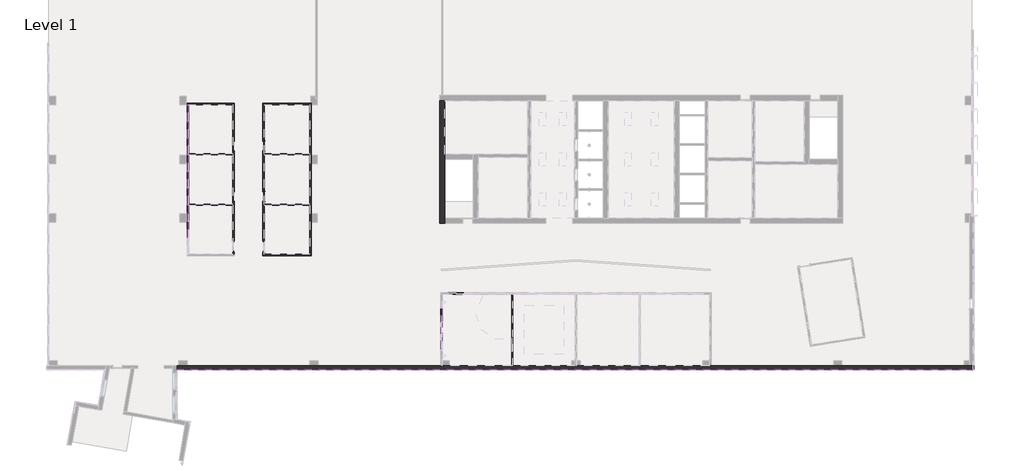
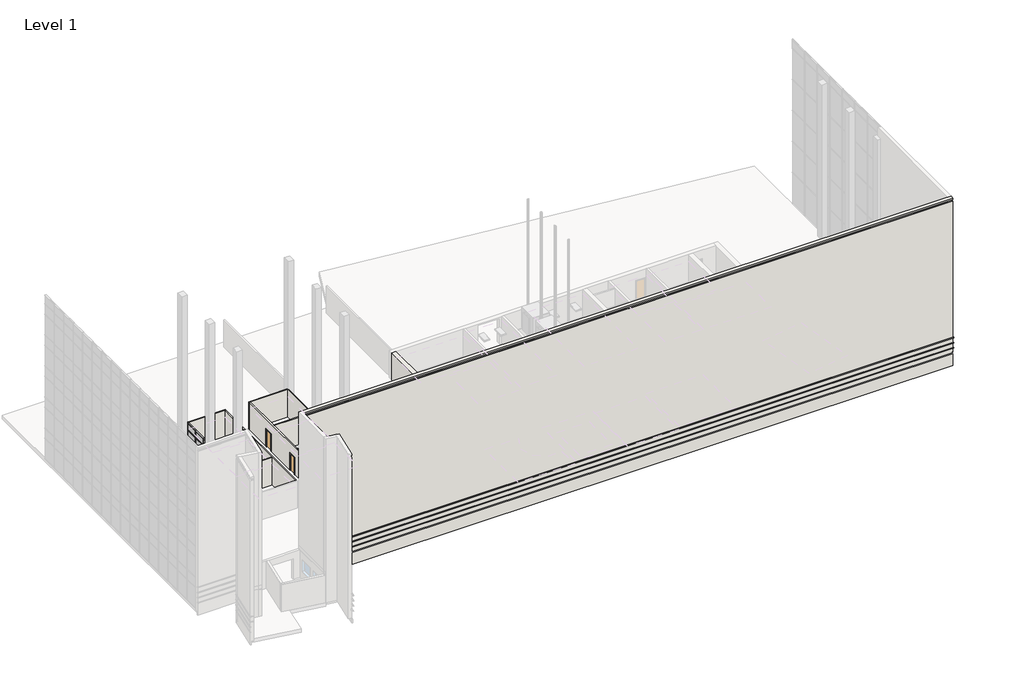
# One storey, part 6 of 23: 48 members, 17 plates, 14 walls, 4 doors, 3 proxies.
"""IFC4 building model written with IfcOpenShell, lengths in millimetres."""

from ifc_helpers import new_model, si_unit, frame, origin, origin_with_axes, place, context, project, spatial, polyline, outline, extrude, faceted_brep, transform, mapped, element, save
from components import door_82111de5, door_92889684, member_fc09b6aa, member_75074519, member_9597caa3, member_b2bde9e6, member_131a91bd, member_8e4b14e5, member_5adcf121, member_e7ed5742, member_d635bea1, member_194437a1, member_8e09d03a, member_19b6149e, member_7e386bcc, member_b540e27d, system_panel_glazed_f771dc8d, system_panel_glazed_f1d9fa5b, system_panel_glazed_1974f2ce, system_panel_solid_d74a2081, system_panel_solid_e04ca811

model = new_model("IFC4")

# Units and contexts
model_context = context("Model", 3, world=origin())
ifc_project = project(units=[si_unit("LENGTHUNIT", "METRE", prefix="MILLI")], contexts=[model_context])

# Site, building, storey
site = spatial("IfcSite", under=ifc_project)
building = spatial("IfcBuilding", under=site)
storey = spatial("IfcBuildingStorey", under=building, Name="Level 1", Elevation=0.0)

# Proxies
placement = place(None, origin())
element("IfcBuildingElementProxy", 1, Name="Reveals", at=placement, inside=storey, context=model_context, shape_type="SweptSolid", body=[
    extrude(outline(polyline([(15157.6054088, -28056.8103492), (15249.6804088, -28148.8853492), (-57009.4125003, -28148.8853492), (-57101.4875003, -28056.8103492), (15157.6054088, -28056.8103492)])), frame((0.0, 0.0, 1625.6), z_axis=(0.0, 0.0, 1.0), x_axis=(1.0, 0.0, 0.0)), (0.0, 0.0, 1.0), 67.7333333),
])
element("IfcBuildingElementProxy", 2, Name="Reveals", at=placement, inside=storey, context=model_context, shape_type="SweptSolid", body=[
    extrude(outline(polyline([(15157.6054088, -28056.8103492), (15249.6804088, -28148.8853492), (-57009.4125003, -28148.8853492), (-57101.4875003, -28056.8103492), (15157.6054088, -28056.8103492)])), frame((0.0, 0.0, 2235.2), z_axis=(0.0, 0.0, 1.0), x_axis=(1.0, 0.0, 0.0)), (0.0, 0.0, 1.0), 67.7333333),
])
element("IfcBuildingElementProxy", 3, Name="Reveals", at=placement, inside=storey, context=model_context, shape_type="SweptSolid", body=[
    extrude(outline(polyline([(15157.6054088, -28056.8103492), (15249.6804088, -28148.8853492), (-57009.4125003, -28148.8853492), (-57101.4875003, -28056.8103492), (15157.6054088, -28056.8103492)])), frame((0.0, 0.0, 2844.8), z_axis=(0.0, 0.0, 1.0), x_axis=(1.0, 0.0, 0.0)), (0.0, 0.0, 1.0), 67.7333333),
])

# Doors
door_shape = door_82111de5(model_context)
element("IfcDoor", 4, ObjectType="Single-Flush : 34\" x 80\"", at=placement, inside=storey, context=model_context, shape_type="MappedRepresentation", body=[
    mapped(door_shape, transform((-51923.5856498, -12385.0103492, 0.0), x_axis=(0.0, -1.0, 0.0), y_axis=(1.0, 0.0, 0.0), z_axis=(0.0, 0.0, 1.0))),
])
element("IfcDoor", 5, ObjectType="Single-Flush : 34\" x 80\"", at=placement, inside=storey, context=model_context, shape_type="MappedRepresentation", body=[
    mapped(door_shape, transform((-51923.5856498, -7813.0103492, 0.0), x_axis=(0.0, -1.0, 0.0), y_axis=(1.0, 0.0, 0.0), z_axis=(0.0, 0.0, 1.0))),
])
door_2_shape = door_92889684(model_context)
element("IfcDoor", 6, ObjectType="Single-Flush : 34\" x 80\"", at=placement, inside=storey, context=model_context, shape_type="MappedRepresentation", body=[
    mapped(door_2_shape, transform((-49194.8999355, -12385.0103492, 0.0), x_axis=(0.0, -1.0, 0.0), y_axis=(1.0, 0.0, 0.0), z_axis=(0.0, 0.0, 1.0))),
])
element("IfcDoor", 7, ObjectType="Single-Flush : 34\" x 80\"", at=placement, inside=storey, context=model_context, shape_type="MappedRepresentation", body=[
    mapped(door_2_shape, transform((-49194.8999355, -7813.0103492, 0.0), x_axis=(0.0, -1.0, 0.0), y_axis=(1.0, 0.0, 0.0), z_axis=(0.0, 0.0, 1.0))),
])

# Members
member_shape = member_fc09b6aa(model_context)
element("IfcMember", 8, ObjectType="Rectangular Mullion : 2.5\" x 5\" rectangular", at=placement, inside=storey, context=model_context, shape_type="MappedRepresentation", body=[
    mapped(member_shape, transform((-56063.7856498, -14635.7325714, 2413.0), x_axis=(0.0, 0.0, 1.0), y_axis=(1.0, 0.0, 0.0), z_axis=(0.0, 1.0, 0.0))),
])
element("IfcMember", 9, ObjectType="Rectangular Mullion : 2.5\" x 5\" rectangular", at=placement, inside=storey, context=model_context, shape_type="MappedRepresentation", body=[
    mapped(member_shape, transform((-56063.7856498, -13125.8436825, 2413.0), x_axis=(0.0, 0.0, 1.0), y_axis=(1.0, 0.0, 0.0), z_axis=(0.0, 1.0, 0.0))),
])
element("IfcMember", 10, ObjectType="Rectangular Mullion : 2.5\" x 5\" rectangular", at=placement, inside=storey, context=model_context, shape_type="MappedRepresentation", body=[
    mapped(member_shape, transform((-56063.7856498, -11615.9547936, 2413.0), x_axis=(0.0, 0.0, 1.0), y_axis=(1.0, 0.0, 0.0), z_axis=(0.0, 1.0, 0.0))),
])
element("IfcMember", 11, ObjectType="Rectangular Mullion : 2.5\" x 5\" rectangular", at=placement, inside=storey, context=model_context, shape_type="MappedRepresentation", body=[
    mapped(member_shape, transform((-56063.7856498, -10106.0659048, 2413.0), x_axis=(0.0, 0.0, 1.0), y_axis=(1.0, 0.0, 0.0), z_axis=(0.0, 1.0, 0.0))),
])
element("IfcMember", 12, ObjectType="Rectangular Mullion : 2.5\" x 5\" rectangular", at=placement, inside=storey, context=model_context, shape_type="MappedRepresentation", body=[
    mapped(member_shape, transform((-56063.7856498, -8596.1770159, 2413.0), x_axis=(0.0, 0.0, 1.0), y_axis=(1.0, 0.0, 0.0), z_axis=(0.0, 1.0, 0.0))),
])
element("IfcMember", 13, ObjectType="Rectangular Mullion : 2.5\" x 5\" rectangular", at=placement, inside=storey, context=model_context, shape_type="MappedRepresentation", body=[
    mapped(member_shape, transform((-56063.7856498, -7086.288127, 2413.0), x_axis=(0.0, 0.0, 1.0), y_axis=(1.0, 0.0, 0.0), z_axis=(0.0, 1.0, 0.0))),
])
element("IfcMember", 14, ObjectType="Rectangular Mullion : 2.5\" x 5\" rectangular", at=placement, inside=storey, context=model_context, shape_type="MappedRepresentation", body=[
    mapped(member_shape, transform((-56063.7856498, -5576.3992381, 2413.0), x_axis=(0.0, 0.0, 1.0), y_axis=(1.0, 0.0, 0.0), z_axis=(0.0, 1.0, 0.0))),
])
member_2_shape = member_75074519(model_context)
element("IfcMember", 15, ObjectType="Rectangular Mullion : 2.5\" x 5\" rectangular", at=placement, inside=storey, context=model_context, shape_type="MappedRepresentation", body=[
    mapped(member_2_shape, transform((-33067.7142212, -22546.5978492, 2413.0), x_axis=(0.0, 0.0, 1.0), y_axis=(1.0, 0.0, 0.0), z_axis=(0.0, 1.0, 0.0))),
])
member_3_shape = member_9597caa3(model_context)
element("IfcMember", 16, ObjectType="Rectangular Mullion : 2.5\" x 5\" rectangular", at=placement, inside=storey, context=model_context, shape_type="MappedRepresentation", body=[
    mapped(member_3_shape, transform((-56063.7856498, -14635.7325714, 38.1), x_axis=(0.0, 1.0, 0.0), y_axis=(1.0, 0.0, 0.0), z_axis=(0.0, 0.0, -1.0))),
])
element("IfcMember", 17, ObjectType="Rectangular Mullion : 2.5\" x 5\" rectangular", at=placement, inside=storey, context=model_context, shape_type="MappedRepresentation", body=[
    mapped(member_3_shape, transform((-56063.7856498, -13125.8436825, 38.1), x_axis=(0.0, 1.0, 0.0), y_axis=(1.0, 0.0, 0.0), z_axis=(0.0, 0.0, -1.0))),
])
element("IfcMember", 18, ObjectType="Rectangular Mullion : 2.5\" x 5\" rectangular", at=placement, inside=storey, context=model_context, shape_type="MappedRepresentation", body=[
    mapped(member_3_shape, transform((-56063.7856498, -11615.9547936, 38.1), x_axis=(0.0, 1.0, 0.0), y_axis=(1.0, 0.0, 0.0), z_axis=(0.0, 0.0, -1.0))),
])
element("IfcMember", 19, ObjectType="Rectangular Mullion : 2.5\" x 5\" rectangular", at=placement, inside=storey, context=model_context, shape_type="MappedRepresentation", body=[
    mapped(member_3_shape, transform((-56063.7856498, -10106.0659048, 38.1), x_axis=(0.0, 1.0, 0.0), y_axis=(1.0, 0.0, 0.0), z_axis=(0.0, 0.0, -1.0))),
])
element("IfcMember", 20, ObjectType="Rectangular Mullion : 2.5\" x 5\" rectangular", at=placement, inside=storey, context=model_context, shape_type="MappedRepresentation", body=[
    mapped(member_3_shape, transform((-56063.7856498, -8596.1770159, 38.1), x_axis=(0.0, 1.0, 0.0), y_axis=(1.0, 0.0, 0.0), z_axis=(0.0, 0.0, -1.0))),
])
element("IfcMember", 21, ObjectType="Rectangular Mullion : 2.5\" x 5\" rectangular", at=placement, inside=storey, context=model_context, shape_type="MappedRepresentation", body=[
    mapped(member_3_shape, transform((-56063.7856498, -7086.288127, 38.1), x_axis=(0.0, 1.0, 0.0), y_axis=(1.0, 0.0, 0.0), z_axis=(0.0, 0.0, -1.0))),
])
element("IfcMember", 22, ObjectType="Rectangular Mullion : 2.5\" x 5\" rectangular", at=placement, inside=storey, context=model_context, shape_type="MappedRepresentation", body=[
    mapped(member_3_shape, transform((-56063.7856498, -5576.3992381, 38.1), x_axis=(0.0, 1.0, 0.0), y_axis=(1.0, 0.0, 0.0), z_axis=(0.0, 0.0, -1.0))),
])
member_4_shape = member_b2bde9e6(model_context)
element("IfcMember", 23, ObjectType="Rectangular Mullion : 2.5\" x 5\" rectangular", at=placement, inside=storey, context=model_context, shape_type="MappedRepresentation", body=[
    mapped(member_4_shape, transform((-56063.7856498, -4066.5103492, 38.1), x_axis=(0.0, 1.0, 0.0), y_axis=(1.0, 0.0, 0.0), z_axis=(0.0, 0.0, -1.0))),
])
member_5_shape = member_131a91bd(model_context)
element("IfcMember", 24, ObjectType="Rectangular Mullion : 2.5\" x 5\" rectangular", at=placement, inside=storey, context=model_context, shape_type="MappedRepresentation", body=[
    mapped(member_5_shape, transform((-56063.7856498, -4066.5103492, 3222.625), x_axis=(0.0, 0.0, 1.0), y_axis=(1.0, 0.0, 0.0), z_axis=(0.0, 1.0, 0.0))),
])
element("IfcMember", 25, ObjectType="Rectangular Mullion : 2.5\" x 5\" rectangular", at=placement, inside=storey, context=model_context, shape_type="MappedRepresentation", body=[
    mapped(member_5_shape, transform((-56063.7856498, -14635.7325714, 3222.625), x_axis=(0.0, 0.0, 1.0), y_axis=(1.0, 0.0, 0.0), z_axis=(0.0, 1.0, 0.0))),
])
element("IfcMember", 26, ObjectType="Rectangular Mullion : 2.5\" x 5\" rectangular", at=placement, inside=storey, context=model_context, shape_type="MappedRepresentation", body=[
    mapped(member_5_shape, transform((-56063.7856498, -13125.8436825, 3222.625), x_axis=(0.0, 0.0, 1.0), y_axis=(1.0, 0.0, 0.0), z_axis=(0.0, 1.0, 0.0))),
])
element("IfcMember", 27, ObjectType="Rectangular Mullion : 2.5\" x 5\" rectangular", at=placement, inside=storey, context=model_context, shape_type="MappedRepresentation", body=[
    mapped(member_5_shape, transform((-56063.7856498, -11615.9547936, 3222.625), x_axis=(0.0, 0.0, 1.0), y_axis=(1.0, 0.0, 0.0), z_axis=(0.0, 1.0, 0.0))),
])
element("IfcMember", 28, ObjectType="Rectangular Mullion : 2.5\" x 5\" rectangular", at=placement, inside=storey, context=model_context, shape_type="MappedRepresentation", body=[
    mapped(member_5_shape, transform((-56063.7856498, -10106.0659048, 3222.625), x_axis=(0.0, 0.0, 1.0), y_axis=(1.0, 0.0, 0.0), z_axis=(0.0, 1.0, 0.0))),
])
element("IfcMember", 29, ObjectType="Rectangular Mullion : 2.5\" x 5\" rectangular", at=placement, inside=storey, context=model_context, shape_type="MappedRepresentation", body=[
    mapped(member_5_shape, transform((-56063.7856498, -8596.1770159, 3222.625), x_axis=(0.0, 0.0, 1.0), y_axis=(1.0, 0.0, 0.0), z_axis=(0.0, 1.0, 0.0))),
])
element("IfcMember", 30, ObjectType="Rectangular Mullion : 2.5\" x 5\" rectangular", at=placement, inside=storey, context=model_context, shape_type="MappedRepresentation", body=[
    mapped(member_5_shape, transform((-56063.7856498, -7086.288127, 3222.625), x_axis=(0.0, 0.0, 1.0), y_axis=(1.0, 0.0, 0.0), z_axis=(0.0, 1.0, 0.0))),
])
element("IfcMember", 31, ObjectType="Rectangular Mullion : 2.5\" x 5\" rectangular", at=placement, inside=storey, context=model_context, shape_type="MappedRepresentation", body=[
    mapped(member_5_shape, transform((-56063.7856498, -5576.3992381, 3222.625), x_axis=(0.0, 0.0, 1.0), y_axis=(1.0, 0.0, 0.0), z_axis=(0.0, 1.0, 0.0))),
])
element("IfcMember", 32, ObjectType="Rectangular Mullion : 2.5\" x 5\" rectangular", at=placement, inside=storey, context=model_context, shape_type="MappedRepresentation", body=[
    mapped(member_5_shape, transform((-56063.7856498, -14635.7325714, -25.4), x_axis=(0.0, 0.0, -1.0), y_axis=(1.0, 0.0, 0.0), z_axis=(0.0, -1.0, 0.0))),
])
element("IfcMember", 33, ObjectType="Rectangular Mullion : 2.5\" x 5\" rectangular", at=placement, inside=storey, context=model_context, shape_type="MappedRepresentation", body=[
    mapped(member_5_shape, transform((-56063.7856498, -13125.8436825, -25.4), x_axis=(0.0, 0.0, -1.0), y_axis=(1.0, 0.0, 0.0), z_axis=(0.0, -1.0, 0.0))),
])
element("IfcMember", 34, ObjectType="Rectangular Mullion : 2.5\" x 5\" rectangular", at=placement, inside=storey, context=model_context, shape_type="MappedRepresentation", body=[
    mapped(member_5_shape, transform((-56063.7856498, -11615.9547936, -25.4), x_axis=(0.0, 0.0, -1.0), y_axis=(1.0, 0.0, 0.0), z_axis=(0.0, -1.0, 0.0))),
])
element("IfcMember", 35, ObjectType="Rectangular Mullion : 2.5\" x 5\" rectangular", at=placement, inside=storey, context=model_context, shape_type="MappedRepresentation", body=[
    mapped(member_5_shape, transform((-56063.7856498, -10106.0659048, -25.4), x_axis=(0.0, 0.0, -1.0), y_axis=(1.0, 0.0, 0.0), z_axis=(0.0, -1.0, 0.0))),
])
element("IfcMember", 36, ObjectType="Rectangular Mullion : 2.5\" x 5\" rectangular", at=placement, inside=storey, context=model_context, shape_type="MappedRepresentation", body=[
    mapped(member_5_shape, transform((-56063.7856498, -8596.1770159, -25.4), x_axis=(0.0, 0.0, -1.0), y_axis=(1.0, 0.0, 0.0), z_axis=(0.0, -1.0, 0.0))),
])
element("IfcMember", 37, ObjectType="Rectangular Mullion : 2.5\" x 5\" rectangular", at=placement, inside=storey, context=model_context, shape_type="MappedRepresentation", body=[
    mapped(member_5_shape, transform((-56063.7856498, -7086.288127, -25.4), x_axis=(0.0, 0.0, -1.0), y_axis=(1.0, 0.0, 0.0), z_axis=(0.0, -1.0, 0.0))),
])
element("IfcMember", 38, ObjectType="Rectangular Mullion : 2.5\" x 5\" rectangular", at=placement, inside=storey, context=model_context, shape_type="MappedRepresentation", body=[
    mapped(member_5_shape, transform((-56063.7856498, -5576.3992381, -25.4), x_axis=(0.0, 0.0, -1.0), y_axis=(1.0, 0.0, 0.0), z_axis=(0.0, -1.0, 0.0))),
])
member_6_shape = member_8e4b14e5(model_context)
element("IfcMember", 39, ObjectType="Rectangular Mullion : 2.5\" x 5\" rectangular", at=placement, inside=storey, context=model_context, shape_type="MappedRepresentation", body=[
    mapped(member_6_shape, transform((-56063.7856498, -4130.0103492, 2413.0), x_axis=(0.0, 0.0, 1.0), y_axis=(1.0, 0.0, 0.0), z_axis=(0.0, 1.0, 0.0))),
])
member_7_shape = member_5adcf121(model_context)
element("IfcMember", 40, ObjectType="Rectangular Mullion : 2.5\" x 5\" rectangular", at=placement, inside=storey, context=model_context, shape_type="MappedRepresentation", body=[
    mapped(member_7_shape, transform((-33067.7142212, -24781.7978492, 38.1), x_axis=(0.0, 1.0, 0.0), y_axis=(1.0, 0.0, 0.0), z_axis=(0.0, 0.0, -1.0))),
])
element("IfcMember", 41, ObjectType="Rectangular Mullion : 2.5\" x 5\" rectangular", at=placement, inside=storey, context=model_context, shape_type="MappedRepresentation", body=[
    mapped(member_7_shape, transform((-33067.7142212, -23765.7978492, 38.1), x_axis=(0.0, 1.0, 0.0), y_axis=(1.0, 0.0, 0.0), z_axis=(0.0, 0.0, -1.0))),
])
member_8_shape = member_e7ed5742(model_context)
element("IfcMember", 42, ObjectType="Rectangular Mullion : 2.5\" x 5\" rectangular", at=placement, inside=storey, context=model_context, shape_type="MappedRepresentation", body=[
    mapped(member_8_shape, transform((-33067.7142212, -22546.5978492, 38.1), x_axis=(0.0, 1.0, 0.0), y_axis=(1.0, 0.0, 0.0), z_axis=(0.0, 0.0, -1.0))),
])
element("IfcMember", 43, ObjectType="Rectangular Mullion : 2.5\" x 5\" rectangular", at=placement, inside=storey, context=model_context, shape_type="MappedRepresentation", body=[
    mapped(member_8_shape, transform((-32436.3427926, -21198.8103492, 2349.5), x_axis=(-1.0, 0.0, 0.0), y_axis=(0.0, -1.0, 0.0), z_axis=(0.0, 0.0, 1.0))),
])
member_9_shape = member_d635bea1(model_context)
element("IfcMember", 44, ObjectType="Rectangular Mullion : 2.5\" x 5\" rectangular", at=placement, inside=storey, context=model_context, shape_type="MappedRepresentation", body=[
    mapped(member_9_shape, transform((-33067.7142212, -23797.5478492, -25.4), x_axis=(0.0, 0.0, -1.0), y_axis=(1.0, 0.0, 0.0), z_axis=(0.0, -1.0, 0.0))),
])
member_10_shape = member_194437a1(model_context)
element("IfcMember", 45, ObjectType="Rectangular Mullion : 2.5\" x 5\" rectangular", at=placement, inside=storey, context=model_context, shape_type="MappedRepresentation", body=[
    mapped(member_10_shape, transform((-33067.7142212, -24781.7978492, 2413.0), x_axis=(0.0, 0.0, 1.0), y_axis=(1.0, 0.0, 0.0), z_axis=(0.0, 1.0, 0.0))),
])
member_11_shape = member_8e09d03a(model_context)
element("IfcMember", 46, ObjectType="Rectangular Mullion : 2.5\" x 5\" rectangular", at=placement, inside=storey, context=model_context, shape_type="MappedRepresentation", body=[
    mapped(member_11_shape, transform((-33067.7142212, -23765.7978492, 2413.0), x_axis=(0.0, 0.0, 1.0), y_axis=(1.0, 0.0, 0.0), z_axis=(0.0, 1.0, 0.0))),
])
member_12_shape = member_19b6149e(model_context)
element("IfcMember", 47, ObjectType="Rectangular Mullion : 2.5\" x 5\" rectangular", at=placement, inside=storey, context=model_context, shape_type="MappedRepresentation", body=[
    mapped(member_12_shape, transform((-32436.3427926, -21198.8103492, -25.4), x_axis=(0.0, 0.0, -1.0), y_axis=(0.0, -1.0, 0.0), z_axis=(-1.0, 0.0, 0.0))),
])
member_13_shape = member_7e386bcc(model_context)
element("IfcMember", 48, ObjectType="Rectangular Mullion : 2.5\" x 5\" rectangular", at=placement, inside=storey, context=model_context, shape_type="MappedRepresentation", body=[
    mapped(member_13_shape, transform((-56063.7856498, -14635.7325714, 2444.75), x_axis=(0.0, 1.0, 0.0), y_axis=(1.0, 0.0, 0.0), z_axis=(0.0, 0.0, -1.0))),
])
element("IfcMember", 49, ObjectType="Rectangular Mullion : 2.5\" x 5\" rectangular", at=placement, inside=storey, context=model_context, shape_type="MappedRepresentation", body=[
    mapped(member_13_shape, transform((-56063.7856498, -13125.8436825, 2444.75), x_axis=(0.0, 1.0, 0.0), y_axis=(1.0, 0.0, 0.0), z_axis=(0.0, 0.0, -1.0))),
])
element("IfcMember", 50, ObjectType="Rectangular Mullion : 2.5\" x 5\" rectangular", at=placement, inside=storey, context=model_context, shape_type="MappedRepresentation", body=[
    mapped(member_13_shape, transform((-56063.7856498, -11615.9547936, 2444.75), x_axis=(0.0, 1.0, 0.0), y_axis=(1.0, 0.0, 0.0), z_axis=(0.0, 0.0, -1.0))),
])
element("IfcMember", 51, ObjectType="Rectangular Mullion : 2.5\" x 5\" rectangular", at=placement, inside=storey, context=model_context, shape_type="MappedRepresentation", body=[
    mapped(member_13_shape, transform((-56063.7856498, -10106.0659048, 2444.75), x_axis=(0.0, 1.0, 0.0), y_axis=(1.0, 0.0, 0.0), z_axis=(0.0, 0.0, -1.0))),
])
element("IfcMember", 52, ObjectType="Rectangular Mullion : 2.5\" x 5\" rectangular", at=placement, inside=storey, context=model_context, shape_type="MappedRepresentation", body=[
    mapped(member_13_shape, transform((-56063.7856498, -8596.1770159, 2444.75), x_axis=(0.0, 1.0, 0.0), y_axis=(1.0, 0.0, 0.0), z_axis=(0.0, 0.0, -1.0))),
])
element("IfcMember", 53, ObjectType="Rectangular Mullion : 2.5\" x 5\" rectangular", at=placement, inside=storey, context=model_context, shape_type="MappedRepresentation", body=[
    mapped(member_13_shape, transform((-56063.7856498, -7086.288127, 2444.75), x_axis=(0.0, 1.0, 0.0), y_axis=(1.0, 0.0, 0.0), z_axis=(0.0, 0.0, -1.0))),
])
element("IfcMember", 54, ObjectType="Rectangular Mullion : 2.5\" x 5\" rectangular", at=placement, inside=storey, context=model_context, shape_type="MappedRepresentation", body=[
    mapped(member_13_shape, transform((-56063.7856498, -5576.3992381, 2444.75), x_axis=(0.0, 1.0, 0.0), y_axis=(1.0, 0.0, 0.0), z_axis=(0.0, 0.0, -1.0))),
])
member_14_shape = member_b540e27d(model_context)
element("IfcMember", 55, ObjectType="Rectangular Mullion : 2.5\" x 5\" rectangular", at=placement, inside=storey, context=model_context, shape_type="MappedRepresentation", body=[
    mapped(member_14_shape, transform((-56063.7856498, -4066.5103492, 2413.0), x_axis=(0.0, 1.0, 0.0), y_axis=(1.0, 0.0, 0.0), z_axis=(0.0, 0.0, -1.0))),
])

# Plates
system_panel_glazed_shape = system_panel_glazed_f771dc8d(model_context)
element("IfcPlate", 56, ObjectType="System Panel : Glazed", at=placement, inside=storey, context=model_context, shape_type="MappedRepresentation", body=[
    mapped(system_panel_glazed_shape, transform((-56063.7856498, -4837.3297936, 38.1), x_axis=(0.0, 1.0, 0.0), y_axis=(-1.0, 0.0, 0.0), z_axis=(0.0, 0.0, 1.0))),
])
system_panel_glazed_2_shape = system_panel_glazed_f1d9fa5b(model_context)
element("IfcPlate", 57, ObjectType="System Panel : Glazed", at=placement, inside=storey, context=model_context, shape_type="MappedRepresentation", body=[
    mapped(system_panel_glazed_2_shape, transform((-56063.7856498, -15390.6770159, 38.1), x_axis=(0.0, 1.0, 0.0), y_axis=(-1.0, 0.0, 0.0), z_axis=(0.0, 0.0, 1.0))),
])
element("IfcPlate", 58, ObjectType="System Panel : Glazed", at=placement, inside=storey, context=model_context, shape_type="MappedRepresentation", body=[
    mapped(system_panel_glazed_2_shape, transform((-56063.7856498, -13880.788127, 38.1), x_axis=(0.0, 1.0, 0.0), y_axis=(-1.0, 0.0, 0.0), z_axis=(0.0, 0.0, 1.0))),
])
element("IfcPlate", 59, ObjectType="System Panel : Glazed", at=placement, inside=storey, context=model_context, shape_type="MappedRepresentation", body=[
    mapped(system_panel_glazed_2_shape, transform((-56063.7856498, -12370.8992381, 38.1), x_axis=(0.0, 1.0, 0.0), y_axis=(-1.0, 0.0, 0.0), z_axis=(0.0, 0.0, 1.0))),
])
element("IfcPlate", 60, ObjectType="System Panel : Glazed", at=placement, inside=storey, context=model_context, shape_type="MappedRepresentation", body=[
    mapped(system_panel_glazed_2_shape, transform((-56063.7856498, -10861.0103492, 38.1), x_axis=(0.0, 1.0, 0.0), y_axis=(-1.0, 0.0, 0.0), z_axis=(0.0, 0.0, 1.0))),
])
element("IfcPlate", 61, ObjectType="System Panel : Glazed", at=placement, inside=storey, context=model_context, shape_type="MappedRepresentation", body=[
    mapped(system_panel_glazed_2_shape, transform((-56063.7856498, -9351.1214603, 38.1), x_axis=(0.0, 1.0, 0.0), y_axis=(-1.0, 0.0, 0.0), z_axis=(0.0, 0.0, 1.0))),
])
element("IfcPlate", 62, ObjectType="System Panel : Glazed", at=placement, inside=storey, context=model_context, shape_type="MappedRepresentation", body=[
    mapped(system_panel_glazed_2_shape, transform((-56063.7856498, -7841.2325714, 38.1), x_axis=(0.0, 1.0, 0.0), y_axis=(-1.0, 0.0, 0.0), z_axis=(0.0, 0.0, 1.0))),
])
element("IfcPlate", 63, ObjectType="System Panel : Glazed", at=placement, inside=storey, context=model_context, shape_type="MappedRepresentation", body=[
    mapped(system_panel_glazed_2_shape, transform((-56063.7856498, -6331.3436825, 38.1), x_axis=(0.0, 1.0, 0.0), y_axis=(-1.0, 0.0, 0.0), z_axis=(0.0, 0.0, 1.0))),
])
system_panel_glazed_3_shape = system_panel_glazed_1974f2ce(model_context)
element("IfcPlate", 64, ObjectType="System Panel : Glazed", at=placement, inside=storey, context=model_context, shape_type="MappedRepresentation", body=[
    mapped(system_panel_glazed_3_shape, transform((-33067.7142212, -23172.0728492, 38.1), x_axis=(0.0, 1.0, 0.0), y_axis=(-1.0, 0.0, 0.0), z_axis=(0.0, 0.0, 1.0))),
])
system_panel_solid_shape = system_panel_solid_d74a2081(model_context)
element("IfcPlate", 65, ObjectType="System Panel : Solid", at=placement, inside=storey, context=model_context, shape_type="MappedRepresentation", body=[
    mapped(system_panel_solid_shape, transform((-56063.7856498, -4837.3297936, 2444.75), x_axis=(0.0, 1.0, 0.0), y_axis=(-1.0, 0.0, 0.0), z_axis=(0.0, 0.0, 1.0))),
])
system_panel_solid_2_shape = system_panel_solid_e04ca811(model_context)
element("IfcPlate", 66, ObjectType="System Panel : Solid", at=placement, inside=storey, context=model_context, shape_type="MappedRepresentation", body=[
    mapped(system_panel_solid_2_shape, transform((-56063.7856498, -15390.6770159, 2444.75), x_axis=(0.0, 1.0, 0.0), y_axis=(-1.0, 0.0, 0.0), z_axis=(0.0, 0.0, 1.0))),
])
element("IfcPlate", 67, ObjectType="System Panel : Solid", at=placement, inside=storey, context=model_context, shape_type="MappedRepresentation", body=[
    mapped(system_panel_solid_2_shape, transform((-56063.7856498, -13880.788127, 2444.75), x_axis=(0.0, 1.0, 0.0), y_axis=(-1.0, 0.0, 0.0), z_axis=(0.0, 0.0, 1.0))),
])
element("IfcPlate", 68, ObjectType="System Panel : Solid", at=placement, inside=storey, context=model_context, shape_type="MappedRepresentation", body=[
    mapped(system_panel_solid_2_shape, transform((-56063.7856498, -12370.8992381, 2444.75), x_axis=(0.0, 1.0, 0.0), y_axis=(-1.0, 0.0, 0.0), z_axis=(0.0, 0.0, 1.0))),
])
element("IfcPlate", 69, ObjectType="System Panel : Solid", at=placement, inside=storey, context=model_context, shape_type="MappedRepresentation", body=[
    mapped(system_panel_solid_2_shape, transform((-56063.7856498, -10861.0103492, 2444.75), x_axis=(0.0, 1.0, 0.0), y_axis=(-1.0, 0.0, 0.0), z_axis=(0.0, 0.0, 1.0))),
])
element("IfcPlate", 70, ObjectType="System Panel : Solid", at=placement, inside=storey, context=model_context, shape_type="MappedRepresentation", body=[
    mapped(system_panel_solid_2_shape, transform((-56063.7856498, -9351.1214603, 2444.75), x_axis=(0.0, 1.0, 0.0), y_axis=(-1.0, 0.0, 0.0), z_axis=(0.0, 0.0, 1.0))),
])
element("IfcPlate", 71, ObjectType="System Panel : Solid", at=placement, inside=storey, context=model_context, shape_type="MappedRepresentation", body=[
    mapped(system_panel_solid_2_shape, transform((-56063.7856498, -7841.2325714, 2444.75), x_axis=(0.0, 1.0, 0.0), y_axis=(-1.0, 0.0, 0.0), z_axis=(0.0, 0.0, 1.0))),
])
element("IfcPlate", 72, ObjectType="System Panel : Solid", at=placement, inside=storey, context=model_context, shape_type="MappedRepresentation", body=[
    mapped(system_panel_solid_2_shape, transform((-56063.7856498, -6331.3436825, 2444.75), x_axis=(0.0, 1.0, 0.0), y_axis=(-1.0, 0.0, 0.0), z_axis=(0.0, 0.0, 1.0))),
])

# Walls
element("IfcWall", 73, ObjectType="Core-shaft 18\" Concrete", at=placement, inside=storey, context=model_context, shape_type="Brep", body=[
    faceted_brep([(-32750.2142212, -14823.4103492, 0.0), (-32750.2142212, -14366.2103492, 0.0), (-32750.2142212, -9032.2103492, 0.0), (-32750.2142212, -8575.0103492, 0.0), (-32750.2142212, -3698.2103492, 0.0), (-32750.2142212, -3698.2103492, 3222.625), (-32750.2142212, -8575.0103492, 3222.625), (-32750.2142212, -9032.2103492, 3222.625), (-32750.2142212, -14366.2103492, 3222.625), (-32750.2142212, -14823.4103492, 3222.625), (-33207.4142212, -14823.4103492, 0.0), (-33207.4142212, -14823.4103492, 3222.625), (-33207.4142212, -3698.2103492, 3222.625), (-33207.4142212, -3698.2103492, 0.0)], [[[0, 1, 2, 3, 4, 5, 6, 7, 8, 9]], [[10, 11, 12, 13]], [[4, 3, 2, 1, 0, 10, 13]], [[0, 9, 11, 10]], [[5, 4, 13, 12]], [[9, 8, 7, 6, 5, 12, 11]]]),
])
element("IfcWall", 74, ObjectType="Exterior - Brick and CMU on MTL. Stud", at=placement, inside=storey, context=model_context, shape_type="Brep", body=[
    faceted_brep([(15183.0054088, -27729.7853492, 0.0), (14830.5804088, -27729.7853492, 0.0), (-8623.8427926, -27729.7853492, 0.0), (-8750.8427926, -27729.7853492, 0.0), (-15018.2927926, -27729.7853492, 0.0), (-15145.2927926, -27729.7853492, 0.0), (-20814.0285069, -27729.7853492, 0.0), (-20941.0285069, -27729.7853492, 0.0), (-26587.9927926, -27729.7853492, 0.0), (-26714.9927926, -27729.7853492, 0.0), (-33004.2142212, -27729.7853492, 0.0), (-33131.2142212, -27729.7853492, 0.0), (-57076.0875003, -27729.7853492, 0.0), (-57076.0875003, -27729.7853492, 3222.625), (-33131.2142212, -27729.7853492, 3222.625), (-33004.2142212, -27729.7853492, 3222.625), (-26714.9927926, -27729.7853492, 3222.625), (-26587.9927926, -27729.7853492, 3222.625), (-20941.0285069, -27729.7853492, 3222.625), (-20814.0285069, -27729.7853492, 3222.625), (-15145.2927926, -27729.7853492, 3222.625), (-15018.2927926, -27729.7853492, 3222.625), (-8750.8427926, -27729.7853492, 3222.625), (-8623.8427926, -27729.7853492, 3222.625), (14830.5804088, -27729.7853492, 3222.625), (14830.5804088, -27729.7853492, 3657.6), (-57076.0875003, -27729.7853492, 3657.6), (-57076.0875003, -27729.7853492, 19304.0), (14830.5804088, -27729.7853492, 19304.0), (15183.0054088, -27729.7853492, 19304.0), (15183.0054088, -27729.7853492, 19100.8), (15090.9304088, -27729.7853492, 19100.8), (15090.9304088, -27729.7853492, 18897.6), (15183.0054088, -27729.7853492, 18897.6), (15183.0054088, -27729.7853492, 2912.5333333), (15157.6054088, -27729.7853492, 2912.5333333), (15157.6054088, -27729.7853492, 2844.8), (15183.0054088, -27729.7853492, 2844.8), (15183.0054088, -27729.7853492, 2302.9333333), (15157.6054088, -27729.7853492, 2302.9333333), (15157.6054088, -27729.7853492, 2235.2), (15183.0054088, -27729.7853492, 2235.2), (15183.0054088, -27729.7853492, 1693.3333333), (15157.6054088, -27729.7853492, 1693.3333333), (15157.6054088, -27729.7853492, 1625.6), (15183.0054088, -27729.7853492, 1625.6), (15183.0054088, -27729.7853492, 1085.85), (15090.9304088, -27729.7853492, 1085.85), (15090.9304088, -27729.7853492, 1016.0), (15183.0054088, -27729.7853492, 1016.0), (15183.0054088, -28082.2103492, 19304.0), (-57076.0875003, -28082.2103492, 19304.0), (-57076.0875003, -28082.2103492, 19100.8), (15183.0054088, -28082.2103492, 19100.8), (-57076.0875003, -28082.2103492, -406.4), (15183.0054088, -28082.2103492, -406.4), (15183.0054088, -28082.2103492, 1016.0), (-57076.0875003, -28082.2103492, 1016.0), (-57076.0875003, -28082.2103492, 1693.3333333), (15183.0054088, -28082.2103492, 1693.3333333), (15183.0054088, -28082.2103492, 2235.2), (-57076.0875003, -28082.2103492, 2235.2), (15183.0054088, -28082.2103492, 1625.6), (-57076.0875003, -28082.2103492, 1625.6), (-57076.0875003, -28082.2103492, 1085.85), (15183.0054088, -28082.2103492, 1085.85), (-57076.0875003, -28082.2103492, 2302.9333333), (15183.0054088, -28082.2103492, 2302.9333333), (15183.0054088, -28082.2103492, 2844.8), (-57076.0875003, -28082.2103492, 2844.8), (-57076.0875003, -28082.2103492, 2912.5333333), (15183.0054088, -28082.2103492, 2912.5333333), (15183.0054088, -28082.2103492, 18897.6), (-57076.0875003, -28082.2103492, 18897.6), (15183.0054088, -27990.1353492, 0.0), (15090.9304088, -27990.1353492, 0.0), (-57076.0875003, -27990.1353492, 0.0), (15183.0054088, -27990.1353492, -406.4), (15090.9304088, -27990.1353492, -406.4), (-57076.0875003, -27990.1353492, -406.4), (15157.6054088, -28056.8103492, 1693.3333333), (-57076.0875003, -28056.8103492, 1693.3333333), (15157.6054088, -28056.8103492, 1625.6), (-57076.0875003, -28056.8103492, 1625.6), (15157.6054088, -28056.8103492, 2302.9333333), (-57076.0875003, -28056.8103492, 2302.9333333), (15157.6054088, -28056.8103492, 2235.2), (-57076.0875003, -28056.8103492, 2235.2), (15157.6054088, -28056.8103492, 2912.5333333), (-57076.0875003, -28056.8103492, 2912.5333333), (15157.6054088, -28056.8103492, 2844.8), (-57076.0875003, -28056.8103492, 2844.8), (15090.9304088, -27990.1353492, 1085.85), (-57076.0875003, -27990.1353492, 1085.85), (15090.9304088, -27990.1353492, 1016.0), (-57076.0875003, -27990.1353492, 1016.0), (15090.9304088, -27990.1353492, 18897.6), (-57076.0875003, -27990.1353492, 18897.6), (15090.9304088, -27990.1353492, 19100.8), (-57076.0875003, -27990.1353492, 19100.8), (-57076.0875003, -27735.220667, 3657.6), (-57076.0875003, -27735.220667, 3222.625), (14830.5804088, -27735.220667, 3222.625), (14830.5804088, -27735.220667, 3657.6)], [[[0, 1, 2, 3, 4, 5, 6, 7, 8, 9, 10, 11, 12, 13, 14, 15, 16, 17, 18, 19, 20, 21, 22, 23, 24, 25, 26, 27, 28, 29, 30, 31, 32, 33, 34, 35, 36, 37, 38, 39, 40, 41, 42, 43, 44, 45, 46, 47, 48, 49]], [[50, 51, 52, 53]], [[54, 55, 56, 57]], [[58, 59, 60, 61]], [[62, 63, 64, 65]], [[66, 67, 68, 69]], [[70, 71, 72, 73]], [[29, 28, 27, 51, 50]], [[12, 11, 10, 9, 8, 7, 6, 5, 4, 3, 2, 1, 0, 74, 75, 76]], [[76, 75, 74, 77, 78, 79]], [[80, 43, 42, 59, 58, 81]], [[44, 82, 83, 63, 62, 45]], [[80, 82, 44, 43]], [[82, 80, 81, 83]], [[84, 39, 38, 67, 66, 85]], [[40, 86, 87, 61, 60, 41]], [[84, 86, 40, 39]], [[86, 84, 85, 87]], [[88, 35, 34, 71, 70, 89]], [[36, 90, 91, 69, 68, 37]], [[88, 90, 36, 35]], [[90, 88, 89, 91]], [[92, 47, 46, 65, 64, 93]], [[48, 94, 95, 57, 56, 49]], [[92, 94, 48, 47]], [[94, 92, 93, 95]], [[32, 96, 97, 73, 72, 33]], [[98, 96, 32, 31]], [[98, 31, 30, 53, 52, 99]], [[96, 98, 99, 97]], [[51, 27, 26, 100, 101, 13, 12, 76, 79, 54, 57, 95, 93, 64, 63, 83, 81, 58, 61, 87, 85, 66, 69, 91, 89, 70, 73, 97, 99, 52]], [[29, 50, 53, 30]], [[59, 42, 41, 60]], [[45, 62, 65, 46]], [[67, 38, 37, 68]], [[71, 34, 33, 72]], [[74, 0, 49, 56, 55, 77]], [[55, 54, 79, 78, 77]], [[101, 102, 24, 23, 22, 21, 20, 19, 18, 17, 16, 15, 14, 13]], [[25, 103, 100, 26]], [[103, 102, 101, 100]], [[102, 103, 25, 24]]]),
])
element("IfcWall", 75, ObjectType="Interior - Generic - 5\"", at=placement, inside=storey, context=model_context, shape_type="Brep", body=[
    faceted_brep([(-44864.1999355, -3939.5103492, 0.0), (-49258.3999355, -3939.5103492, 0.0), (-49258.3999355, -3939.5103492, 3222.625), (-44864.1999355, -3939.5103492, 3222.625), (-44864.1999355, -4066.5103492, 0.0), (-44864.1999355, -4066.5103492, 3222.625), (-44991.1999355, -4066.5103492, 3222.625), (-49131.3999355, -4066.5103492, 3222.625), (-49258.3999355, -4066.5103492, 3222.625), (-49258.3999355, -4066.5103492, 0.0), (-49131.3999355, -4066.5103492, 0.0), (-44991.1999355, -4066.5103492, 0.0)], [[[0, 1, 2, 3]], [[4, 5, 6, 7, 8, 9, 10, 11]], [[1, 0, 4, 11, 10, 9]], [[0, 3, 5, 4]], [[2, 1, 9, 8]], [[3, 2, 8, 7, 6, 5]]]),
])
element("IfcWall", 76, ObjectType="Interior - Generic - 5\"", at=placement, inside=storey, context=model_context, shape_type="Brep", body=[
    faceted_brep([(-44864.1999355, -17782.5103492, 0.0), (-44864.1999355, -4066.5103492, 0.0), (-44864.1999355, -4066.5103492, 3222.625), (-44864.1999355, -17782.5103492, 3222.625), (-44991.1999355, -17782.5103492, 0.0), (-44991.1999355, -17782.5103492, 3222.625), (-44991.1999355, -17655.5103492, 3222.625), (-44991.1999355, -13210.5103492, 3222.625), (-44991.1999355, -13083.5103492, 3222.625), (-44991.1999355, -8638.5103492, 3222.625), (-44991.1999355, -8511.5103492, 3222.625), (-44991.1999355, -4066.5103492, 3222.625), (-44991.1999355, -4066.5103492, 0.0), (-44991.1999355, -8511.5103492, 0.0), (-44991.1999355, -8638.5103492, 0.0), (-44991.1999355, -13083.5103492, 0.0), (-44991.1999355, -13210.5103492, 0.0), (-44991.1999355, -17655.5103492, 0.0)], [[[0, 1, 2, 3]], [[4, 5, 6, 7, 8, 9, 10, 11, 12, 13, 14, 15, 16, 17]], [[1, 0, 4, 17, 16, 15, 14, 13, 12]], [[0, 3, 5, 4]], [[2, 1, 12, 11]], [[3, 2, 11, 10, 9, 8, 7, 6, 5]]]),
])
element("IfcWall", 77, ObjectType="Interior - Generic - 5\"", at=placement, inside=storey, context=model_context, shape_type="SweptSolid", body=[
    extrude(outline(polyline([(-56127.2856498, -3939.5103492), (-56000.2856498, -3939.5103492), (-56000.2856498, -4066.5103492), (-56127.2856498, -4066.5103492), (-56127.2856498, -3939.5103492)])), origin_with_axes(), (0.0, 0.0, 1.0), 3222.625),
])
element("IfcWall", 78, ObjectType="Interior - Generic - 5\"", at=placement, inside=storey, context=model_context, shape_type="Brep", body=[
    faceted_brep([(-49131.3999355, -11953.2103492, 0.0), (-49131.3999355, -8638.5103492, 0.0), (-49131.3999355, -8511.5103492, 0.0), (-49131.3999355, -8244.8103492, 0.0), (-49131.3999355, -8244.8103492, 2032.0), (-49131.3999355, -7381.2103492, 2032.0), (-49131.3999355, -7381.2103492, 0.0), (-49131.3999355, -4066.5103492, 0.0), (-49131.3999355, -4066.5103492, 3222.625), (-49131.3999355, -8511.5103492, 3222.625), (-49131.3999355, -8638.5103492, 3222.625), (-49131.3999355, -13083.5103492, 3222.625), (-49131.3999355, -13210.5103492, 3222.625), (-49131.3999355, -17655.5103492, 3222.625), (-49131.3999355, -17655.5103492, 0.0), (-49131.3999355, -17388.8103492, 0.0), (-49131.3999355, -17388.8103492, 2032.0), (-49131.3999355, -16525.2103492, 2032.0), (-49131.3999355, -16525.2103492, 0.0), (-49131.3999355, -13210.5103492, 0.0), (-49131.3999355, -13083.5103492, 0.0), (-49131.3999355, -12816.8103492, 0.0), (-49131.3999355, -12816.8103492, 2032.0), (-49131.3999355, -11953.2103492, 2032.0), (-49258.3999355, -8244.8103492, 2032.0), (-49258.3999355, -8244.8103492, 0.0), (-49258.3999355, -11953.2103492, 0.0), (-49258.3999355, -11953.2103492, 2032.0), (-49258.3999355, -12816.8103492, 2032.0), (-49258.3999355, -12816.8103492, 0.0), (-49258.3999355, -16525.2103492, 0.0), (-49258.3999355, -16525.2103492, 2032.0), (-49258.3999355, -17388.8103492, 2032.0), (-49258.3999355, -17388.8103492, 0.0), (-49258.3999355, -17655.5103492, 0.0), (-49258.3999355, -17655.5103492, 3222.625), (-49258.3999355, -4066.5103492, 3222.625), (-49258.3999355, -4066.5103492, 0.0), (-49258.3999355, -7381.2103492, 0.0), (-49258.3999355, -7381.2103492, 2032.0)], [[[0, 1, 2, 3, 4, 5, 6, 7, 8, 9, 10, 11, 12, 13, 14, 15, 16, 17, 18, 19, 20, 21, 22, 23]], [[24, 25, 26, 27, 28, 29, 30, 31, 32, 33, 34, 35, 36, 37, 38, 39]], [[34, 33, 15, 14]], [[30, 29, 21, 20, 19, 18]], [[38, 37, 7, 6]], [[26, 25, 3, 2, 1, 0]], [[8, 7, 37, 36]], [[14, 13, 35, 34]], [[16, 15, 33, 32]], [[17, 16, 32, 31]], [[18, 17, 31, 30]], [[22, 21, 29, 28]], [[23, 22, 28, 27]], [[0, 23, 27, 26]], [[4, 3, 25, 24]], [[5, 4, 24, 39]], [[6, 5, 39, 38]], [[13, 12, 11, 10, 9, 8, 36, 35]]]),
])
element("IfcWall", 79, ObjectType="Interior - Generic - 5\"", at=placement, inside=storey, context=model_context, shape_type="Brep", body=[
    faceted_brep([(-51987.0856498, -8244.8103492, 2032.0), (-51987.0856498, -8244.8103492, 0.0), (-51987.0856498, -8511.5103492, 0.0), (-51987.0856498, -8638.5103492, 0.0), (-51987.0856498, -11953.2103492, 0.0), (-51987.0856498, -11953.2103492, 2032.0), (-51987.0856498, -12816.8103492, 2032.0), (-51987.0856498, -12816.8103492, 0.0), (-51987.0856498, -13083.5103492, 0.0), (-51987.0856498, -13210.5103492, 0.0), (-51987.0856498, -16525.2103492, 0.0), (-51987.0856498, -16525.2103492, 2032.0), (-51987.0856498, -17388.8103492, 2032.0), (-51987.0856498, -17388.8103492, 0.0), (-51987.0856498, -17655.5103492, 0.0), (-51987.0856498, -17655.5103492, 3222.625), (-51987.0856498, -13210.5103492, 3222.625), (-51987.0856498, -13083.5103492, 3222.625), (-51987.0856498, -8638.5103492, 3222.625), (-51987.0856498, -8511.5103492, 3222.625), (-51987.0856498, -4066.5103492, 3222.625), (-51987.0856498, -4066.5103492, 0.0), (-51987.0856498, -7381.2103492, 0.0), (-51987.0856498, -7381.2103492, 2032.0), (-51860.0856498, -11953.2103492, 0.0), (-51860.0856498, -8244.8103492, 0.0), (-51860.0856498, -8244.8103492, 2032.0), (-51860.0856498, -7381.2103492, 2032.0), (-51860.0856498, -7381.2103492, 0.0), (-51860.0856498, -4066.5103492, 0.0), (-51860.0856498, -4066.5103492, 3222.625), (-51860.0856498, -17655.5103492, 3222.625), (-51860.0856498, -17655.5103492, 0.0), (-51860.0856498, -17388.8103492, 0.0), (-51860.0856498, -17388.8103492, 2032.0), (-51860.0856498, -16525.2103492, 2032.0), (-51860.0856498, -16525.2103492, 0.0), (-51860.0856498, -12816.8103492, 0.0), (-51860.0856498, -12816.8103492, 2032.0), (-51860.0856498, -11953.2103492, 2032.0)], [[[0, 1, 2, 3, 4, 5, 6, 7, 8, 9, 10, 11, 12, 13, 14, 15, 16, 17, 18, 19, 20, 21, 22, 23]], [[24, 25, 26, 27, 28, 29, 30, 31, 32, 33, 34, 35, 36, 37, 38, 39]], [[14, 13, 33, 32]], [[10, 9, 8, 7, 37, 36]], [[22, 21, 29, 28]], [[4, 3, 2, 1, 25, 24]], [[21, 20, 30, 29]], [[15, 14, 32, 31]], [[34, 33, 13, 12]], [[35, 34, 12, 11]], [[36, 35, 11, 10]], [[38, 37, 7, 6]], [[39, 38, 6, 5]], [[24, 39, 5, 4]], [[26, 25, 1, 0]], [[27, 26, 0, 23]], [[28, 27, 23, 22]], [[20, 19, 18, 17, 16, 15, 31, 30]]]),
])
element("IfcWall", 80, ObjectType="Interior - Generic - 5\"", at=placement, inside=storey, context=model_context, shape_type="Brep", body=[
    faceted_brep([(-49258.3999355, -17782.5103492, 0.0), (-44991.1999355, -17782.5103492, 0.0), (-44991.1999355, -17782.5103492, 3222.625), (-49258.3999355, -17782.5103492, 3222.625), (-49258.3999355, -17655.5103492, 0.0), (-49258.3999355, -17655.5103492, 3222.625), (-49131.3999355, -17655.5103492, 3222.625), (-44991.1999355, -17655.5103492, 3222.625), (-44991.1999355, -17655.5103492, 0.0), (-49131.3999355, -17655.5103492, 0.0)], [[[0, 1, 2, 3]], [[4, 5, 6, 7, 8, 9]], [[1, 0, 4, 9, 8]], [[2, 1, 8, 7]], [[0, 3, 5, 4]], [[3, 2, 7, 6, 5]]]),
])
element("IfcWall", 81, ObjectType="Interior - Generic - 5\"", at=placement, inside=storey, context=model_context, shape_type="Brep", body=[
    faceted_brep([(-51860.0856498, -3939.5103492, 0.0), (-56000.2856498, -3939.5103492, 0.0), (-56000.2856498, -3939.5103492, 3222.625), (-51860.0856498, -3939.5103492, 3222.625), (-51860.0856498, -4066.5103492, 0.0), (-51860.0856498, -4066.5103492, 3222.625), (-51987.0856498, -4066.5103492, 3222.625), (-56000.2856498, -4066.5103492, 3222.625), (-56000.2856498, -4066.5103492, 0.0), (-51987.0856498, -4066.5103492, 0.0)], [[[0, 1, 2, 3]], [[4, 5, 6, 7, 8, 9]], [[1, 0, 4, 9, 8]], [[2, 1, 8, 7]], [[0, 3, 5, 4]], [[3, 2, 7, 6, 5]]]),
])
element("IfcWall", 82, ObjectType="Interior - Generic - 5\"", at=placement, inside=storey, context=model_context, shape_type="SweptSolid", body=[
    extrude(outline(polyline([(-44991.1999355, -8638.5103492), (-49131.3999355, -8638.5103492), (-49131.3999355, -8511.5103492), (-44991.1999355, -8511.5103492), (-44991.1999355, -8638.5103492)])), origin_with_axes(), (0.0, 0.0, 1.0), 3222.625),
])
element("IfcWall", 83, ObjectType="Interior - Generic - 5\"", at=placement, inside=storey, context=model_context, shape_type="SweptSolid", body=[
    extrude(outline(polyline([(-44991.1999355, -13210.5103492), (-49131.3999355, -13210.5103492), (-49131.3999355, -13083.5103492), (-44991.1999355, -13083.5103492), (-44991.1999355, -13210.5103492)])), origin_with_axes(), (0.0, 0.0, 1.0), 3222.625),
])
element("IfcWall", 84, ObjectType="Interior - Generic - 5\"", at=placement, inside=storey, context=model_context, shape_type="SweptSolid", body=[
    extrude(outline(polyline([(-56000.2856498, -13083.5103492), (-51987.0856498, -13083.5103492), (-51987.0856498, -13210.5103492), (-56000.2856498, -13210.5103492), (-56000.2856498, -13083.5103492)])), origin_with_axes(), (0.0, 0.0, 1.0), 3222.625),
])
element("IfcWall", 85, ObjectType="Interior - Generic - 5\"", at=placement, inside=storey, context=model_context, shape_type="SweptSolid", body=[
    extrude(outline(polyline([(-56000.2856498, -8511.5103492), (-51987.0856498, -8511.5103492), (-51987.0856498, -8638.5103492), (-56000.2856498, -8638.5103492), (-56000.2856498, -8511.5103492)])), origin_with_axes(), (0.0, 0.0, 1.0), 3222.625),
])
element("IfcWall", 86, ObjectType="Interior - Generic - 5\"", at=placement, inside=storey, context=model_context, shape_type="SweptSolid", body=[
    extrude(outline(polyline([(-26587.9927926, -21262.3103492), (-26587.9927926, -27729.7853492), (-26714.9927926, -27729.7853492), (-26714.9927926, -21262.3103492), (-26587.9927926, -21262.3103492)])), origin_with_axes(), (0.0, 0.0, 1.0), 3222.625),
])

save(model, "model.ifc")
